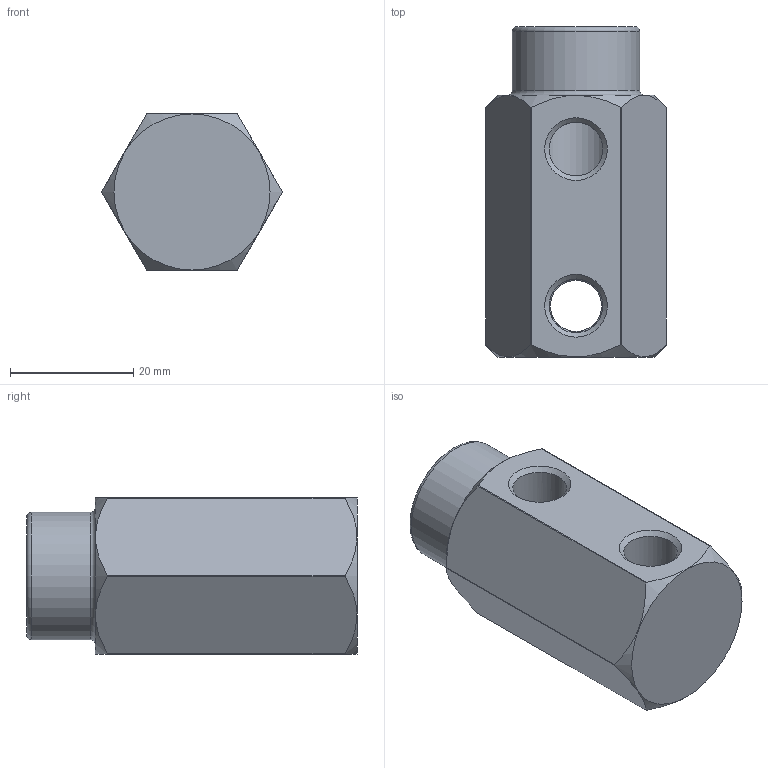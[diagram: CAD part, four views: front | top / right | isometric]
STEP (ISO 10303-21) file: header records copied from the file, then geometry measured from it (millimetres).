
FILE_DESCRIPTION(/* description */ (''),/* implementation_level */ '2;1');
FILE_NAME(/* name */ 'C:/Users/drich/Desktop/141H v2.step',/* time_stamp */ '2020-01-10T20:20:38-06:00',/* author */ (''),/* organization */ (''),/* preprocessor_version */ 'ST-DEVELOPER v18',/* originating_system */ 'Autodesk Translation Framework v8.12.0.6',/* authorisation */ '');
FILE_SCHEMA (('AUTOMOTIVE_DESIGN { 1 0 10303 214 3 1 1 }'));
Length unit declared in the file: inch
Products named in the file (2): 141H; 141H_1
Assembly tree (1 placements, depth 2):
  141H
    141H_1
Bounding box: 29.26 x 53.59 x 25.4 mm (x, y, z)
Volume: 22017.5 mm3; surface area: 7251.9 mm2
Topology: 1 solids, 1 shells, 33 faces, 94 edges, 61 vertices
Faces by surface type: cylinder 13, cone 9, plane 9, torus 2
Full cylindrical faces by diameter (mm): 5.474 x1, 8.707 x3, 11.668 x1, 20.625 x1
Entity records: 1233 total; most frequent: CARTESIAN_POINT 308, DIRECTION 191, ORIENTED_EDGE 188, EDGE_CURVE 94, AXIS2_PLACEMENT_3D 82, VERTEX_POINT 61, CIRCLE 46, EDGE_LOOP 39
